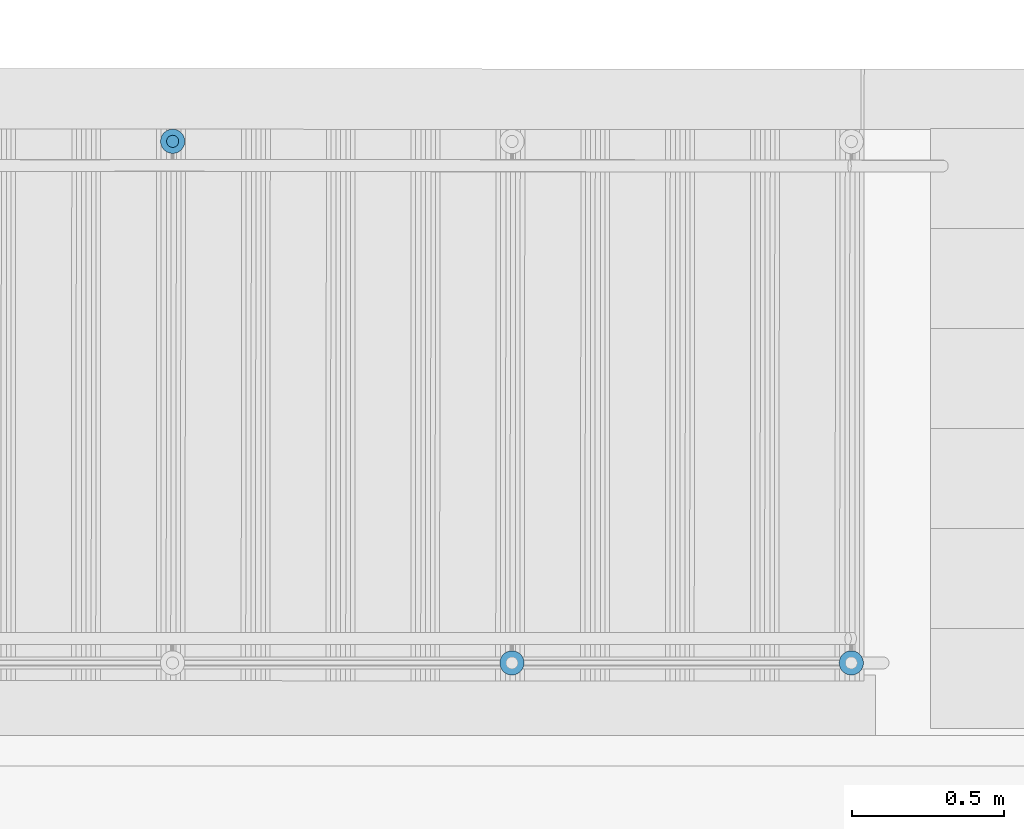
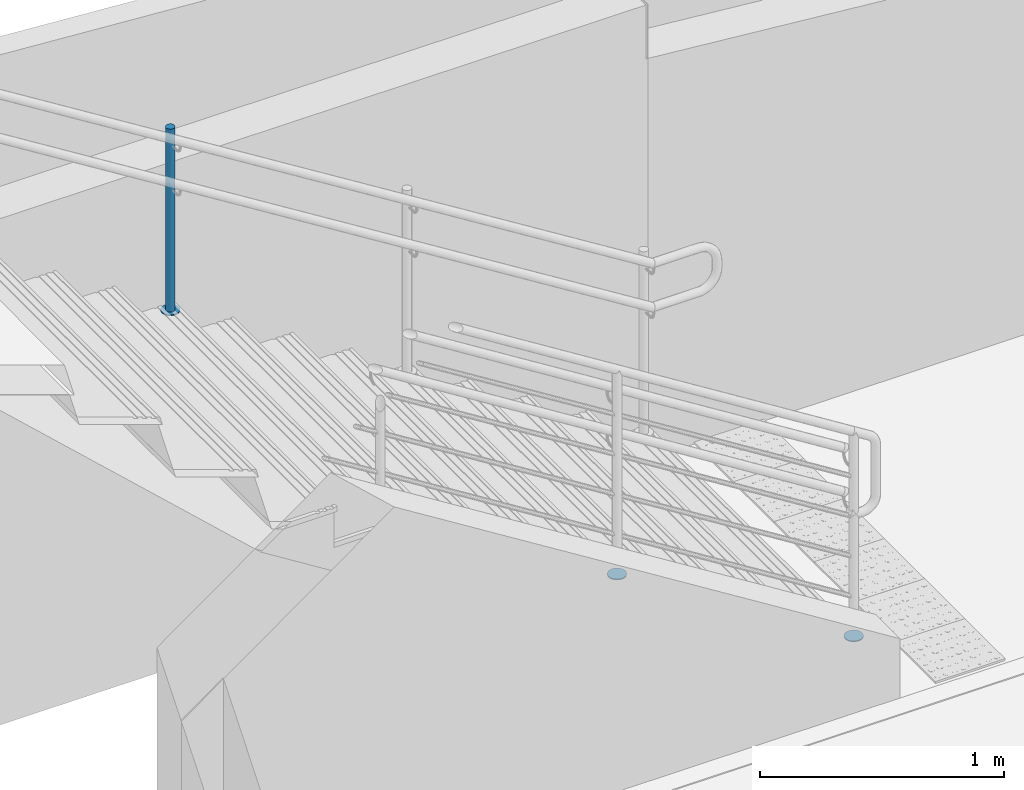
# One storey, part 138 of 237: 4 building element parts, 2 elements without a shape of their own.
"""IFC2X3 building model written with IfcOpenShell, lengths in millimetres."""

from ifc_helpers import new_model, entity, si_unit, converted_unit, derived_unit, money_unit, direction, frame, origin_with_axes, place, context, subcontext, project, spatial, faceted_brep, material, type_object, element, aggregate, save


model = new_model("IFC2X3")

# Units and contexts
model_context = context("Model", 3, precision=0.01, world=origin_with_axes(), true_north=direction((0.0, 1.0)))
body_context = subcontext(model_context, "Body", "Model", "MODEL_VIEW")
ifc_project = project(units=[si_unit("LENGTHUNIT", "METRE", prefix="MILLI"), si_unit("AREAUNIT", "SQUARE_METRE"), si_unit("VOLUMEUNIT", "CUBIC_METRE"), converted_unit("PLANEANGLEUNIT", "DEGREE", entity("IfcPlaneAngleMeasure", 0.0174532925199), si_unit("PLANEANGLEUNIT", "RADIAN"), dimensions=[0, 0, 0, 0, 0, 0, 0]), money_unit("USD"), converted_unit("TIMEUNIT", "Year", entity("IfcTimeMeasure", 31556926.0), si_unit("TIMEUNIT", "SECOND"), dimensions=[0, 0, 1, 0, 0, 0, 0]), si_unit("MASSUNIT", "GRAM", prefix="KILO"), si_unit("THERMODYNAMICTEMPERATUREUNIT", "DEGREE_CELSIUS"), si_unit("LUMINOUSINTENSITYUNIT", "LUMEN"), si_unit("ENERGYUNIT", "JOULE", prefix="MEGA"), derived_unit("THERMALCONDUCTANCEUNIT", [(si_unit("POWERUNIT", "WATT"), 1), (si_unit("LENGTHUNIT", "METRE"), -1), (si_unit("THERMODYNAMICTEMPERATUREUNIT", "KELVIN"), -1)]), derived_unit("SPECIFICHEATCAPACITYUNIT", [(si_unit("ENERGYUNIT", "JOULE"), 1), (si_unit("MASSUNIT", "GRAM", prefix="KILO"), -1), (si_unit("THERMODYNAMICTEMPERATUREUNIT", "KELVIN"), -1)]), derived_unit("MASSDENSITYUNIT", [(si_unit("MASSUNIT", "GRAM", prefix="KILO"), 1), (si_unit("VOLUMEUNIT", "CUBIC_METRE"), -1)])], contexts=[model_context])

# Site, building, storey
site_placement = place(None, origin_with_axes())
site = spatial("IfcSite", under=ifc_project, at=site_placement, Name="Local", CompositionType="ELEMENT")
building_placement = place(site_placement, origin_with_axes())
building = spatial("IfcBuilding", under=site, at=building_placement, Name="Construção", CompositionType="ELEMENT")
storey_placement = place(building_placement, origin_with_axes())
storey = spatial("IfcBuildingStorey", under=building, at=storey_placement, Name="Pavimento Térreo", CompositionType="ELEMENT", Elevation=0.0)

# Railing, building element parts
railing_type = type_object("IfcRailingType", Name="Tipo de Guarda-Corpo", PredefinedType="NOTDEFINED")
railing_1_placement = place(storey_placement, frame((104000.0, 34000.0, -7124.22292764), z_axis=(0.0, 0.0, 1.0), x_axis=(1.0, 0.0, 0.0)))
railing_1 = element("IfcRailing", 1, at=railing_1_placement, inside=storey, type_object=railing_type, Name="Guarda-Corpo - 001", PredefinedType="NOTDEFINED")
ifc_material_1 = material(Name="Aço - Inoxidável")
building_element_part_1_placement = place(railing_1_placement, origin_with_axes())
building_element_part_1 = element("IfcBuildingElementPart", 2, at=building_element_part_1_placement, material=ifc_material_1, Name="Aço - Inoxidável", context=body_context, shape_type="Brep", body=[
    faceted_brep([(-2652.14645915, 432.46807088, 1426.32142389), (-2655.61924154, 432.773979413, 1426.32142389), (-2655.61924154, 432.773979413, 2341.32142389), (-2652.14645915, 432.46807088, 2341.32142389), (-2659.09238503, 432.472198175, 1426.32142389), (-2648.77955658, 431.56376745, 1426.32142389), (-2645.62083547, 430.088545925, 1426.32142389), (-2642.76627196, 428.087230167, 1426.32142389), (-2640.30260052, 425.62062914, 1426.32142389), (-2638.30467856, 422.763689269, 1426.32142389), (-2636.83321193, 419.603217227, 1426.32142389), (-2635.93291039, 416.235242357, 1426.32142389), (-2635.63112915, 412.762098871, 1426.32142389), (-2635.93703768, 409.289316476, 1426.32142389), (-2636.84134111, 405.922413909, 1426.32142389), (-2638.31656264, 402.7636928, 1426.32142389), (-2640.31787839, 399.909129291, 1426.32142389), (-2642.78447942, 397.445457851, 1426.32142389), (-2645.64141929, 395.447535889, 1426.32142389), (-2648.80189133, 393.976069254, 1426.32142389), (-2652.1698662, 393.075767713, 1426.32142389), (-2655.64300969, 392.773986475, 1426.32142389), (-2659.11579208, 393.079895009, 1426.32142389), (-2662.48269465, 393.984198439, 1426.32142389), (-2665.64141576, 395.459419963, 1426.32142389), (-2668.49597927, 397.460735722, 1426.32142389), (-2670.95965071, 399.927336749, 1426.32142389), (-2672.95757267, 402.784276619, 1426.32142389), (-2674.42903931, 405.944748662, 1426.32142389), (-2675.32934085, 409.312723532, 1426.32142389), (-2675.63112209, 412.785867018, 1426.32142389), (-2675.32521355, 416.258649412, 1426.32142389), (-2674.42091012, 419.625551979, 1426.32142389), (-2672.9456886, 422.784273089, 1426.32142389), (-2670.94437284, 425.638836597, 1426.32142389), (-2668.47777181, 428.102508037, 1426.32142389), (-2665.62083194, 430.100429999, 1426.32142389), (-2662.4603599, 431.571896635, 1426.32142389), (-2659.09238503, 432.472198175, 2341.32142389), (-2635.93703768, 409.289316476, 2341.32142389), (-2635.63112915, 412.762098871, 2341.32142389), (-2635.93291039, 416.235242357, 2341.32142389), (-2636.83321193, 419.603217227, 2341.32142389), (-2638.30467856, 422.763689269, 2341.32142389), (-2640.30260052, 425.62062914, 2341.32142389), (-2642.76627196, 428.087230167, 2341.32142389), (-2645.62083547, 430.088545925, 2341.32142389), (-2648.77955658, 431.56376745, 2341.32142389), (-2662.4603599, 431.571896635, 2341.32142389), (-2665.62083194, 430.100429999, 2341.32142389), (-2668.47777181, 428.102508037, 2341.32142389), (-2670.94437284, 425.638836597, 2341.32142389), (-2672.9456886, 422.784273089, 2341.32142389), (-2674.42091012, 419.625551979, 2341.32142389), (-2675.32521355, 416.258649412, 2341.32142389), (-2675.63112209, 412.785867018, 2341.32142389), (-2675.32934085, 409.312723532, 2341.32142389), (-2674.42903931, 405.944748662, 2341.32142389), (-2672.95757267, 402.784276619, 2341.32142389), (-2670.95965071, 399.927336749, 2341.32142389), (-2668.49597927, 397.460735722, 2341.32142389), (-2665.64141576, 395.459419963, 2341.32142389), (-2662.48269465, 393.984198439, 2341.32142389), (-2659.11579208, 393.079895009, 2341.32142389), (-2655.64300969, 392.773986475, 2341.32142389), (-2652.1698662, 393.075767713, 2341.32142389), (-2648.80189133, 393.976069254, 2341.32142389), (-2645.64141929, 395.447535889, 2341.32142389), (-2642.78447942, 397.445457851, 2341.32142389), (-2640.31787839, 399.909129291, 2341.32142389), (-2638.31656264, 402.7636928, 2341.32142389), (-2636.84134111, 405.922413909, 2341.32142389)], [[[0, 1, 2, 3]], [[4, 1, 0, 5, 6, 7, 8, 9, 10, 11, 12, 13, 14, 15, 16, 17, 18, 19, 20, 21, 22, 23, 24, 25, 26, 27, 28, 29, 30, 31, 32, 33, 34, 35, 36, 37]], [[1, 4, 38, 2]], [[39, 40, 41, 42, 43, 44, 45, 46, 47, 3, 2, 38, 48, 49, 50, 51, 52, 53, 54, 55, 56, 57, 58, 59, 60, 61, 62, 63, 64, 65, 66, 67, 68, 69, 70, 71]], [[5, 0, 3, 47]], [[6, 5, 47, 46]], [[7, 6, 46, 45]], [[8, 7, 45, 44]], [[9, 8, 44, 43]], [[10, 9, 43, 42]], [[11, 10, 42, 41]], [[12, 11, 41, 40]], [[13, 12, 40, 39]], [[14, 13, 39, 71]], [[15, 14, 71, 70]], [[16, 15, 70, 69]], [[17, 16, 69, 68]], [[18, 17, 68, 67]], [[19, 18, 67, 66]], [[20, 19, 66, 65]], [[21, 20, 65, 64]], [[22, 21, 64, 63]], [[23, 22, 63, 62]], [[24, 23, 62, 61]], [[25, 24, 61, 60]], [[26, 25, 60, 59]], [[27, 26, 59, 58]], [[28, 27, 58, 57]], [[29, 28, 57, 56]], [[30, 29, 56, 55]], [[31, 30, 55, 54]], [[32, 31, 54, 53]], [[33, 32, 53, 52]], [[34, 33, 52, 51]], [[35, 34, 51, 50]], [[36, 35, 50, 49]], [[37, 36, 49, 48]], [[4, 37, 48, 38]]]),
])
ifc_material_2 = material(Name="Alumínio")
building_element_part_2_placement = place(railing_1_placement, origin_with_axes())
building_element_part_2 = element("IfcBuildingElementPart", 3, at=building_element_part_2_placement, material=ifc_material_2, Name="Alumínio", context=body_context, shape_type="Brep", body=[
    faceted_brep([(-2695.63111855, 412.797751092, 1421.32142389), (-2695.02755608, 405.85146412, 1421.32142389), (-2695.02755608, 405.85146412, 1426.32142389), (-2695.63111855, 412.797751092, 1426.32142389), (-2695.01930149, 419.74331588, 1421.32142389), (-2693.21069463, 426.477121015, 1421.32142389), (-2690.26025158, 432.794563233, 1421.32142389), (-2686.25762006, 438.50369025, 1421.32142389), (-2681.32441801, 443.43103313, 1421.32142389), (-2675.61053827, 447.426877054, 1421.32142389), (-2669.28959418, 450.369810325, 1421.32142389), (-2662.55364444, 452.170413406, 1421.32142389), (-2655.60735747, 452.773975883, 1421.32142389), (-2648.66179268, 452.162158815, 1421.32142389), (-2641.92798755, 450.353551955, 1421.32142389), (-2635.61054533, 447.403108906, 1421.32142389), (-2629.90141831, 443.400477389, 1421.32142389), (-2624.97407543, 438.467275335, 1421.32142389), (-2620.97823151, 432.753395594, 1421.32142389), (-2618.03529824, 426.432451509, 1421.32142389), (-2616.23469515, 419.696501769, 1421.32142389), (-2615.63113268, 412.750214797, 1421.32142389), (-2616.24294975, 405.804650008, 1421.32142389), (-2618.05155661, 399.070844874, 1421.32142389), (-2621.00199965, 392.753402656, 1421.32142389), (-2625.00463117, 387.044275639, 1421.32142389), (-2629.93783323, 382.116932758, 1421.32142389), (-2635.65171297, 378.121088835, 1421.32142389), (-2641.97265705, 375.178155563, 1421.32142389), (-2648.70860679, 373.377552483, 1421.32142389), (-2655.65489376, 372.773990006, 1421.32142389), (-2662.60045855, 373.385807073, 1421.32142389), (-2669.33426369, 375.194413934, 1421.32142389), (-2675.65170591, 378.144856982, 1421.32142389), (-2681.36083292, 382.1474885, 1421.32142389), (-2686.2881758, 387.080690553, 1421.32142389), (-2690.28401973, 392.794570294, 1421.32142389), (-2693.226953, 399.115514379, 1421.32142389), (-2693.226953, 399.115514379, 1426.32142389), (-2690.28401973, 392.794570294, 1426.32142389), (-2686.2881758, 387.080690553, 1426.32142389), (-2681.36083292, 382.1474885, 1426.32142389), (-2675.65170591, 378.144856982, 1426.32142389), (-2669.33426369, 375.194413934, 1426.32142389), (-2662.60045855, 373.385807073, 1426.32142389), (-2655.65489376, 372.773990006, 1426.32142389), (-2648.70860679, 373.377552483, 1426.32142389), (-2641.97265705, 375.178155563, 1426.32142389), (-2635.65171297, 378.121088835, 1426.32142389), (-2629.93783323, 382.116932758, 1426.32142389), (-2625.00463117, 387.044275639, 1426.32142389), (-2621.00199965, 392.753402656, 1426.32142389), (-2618.05155661, 399.070844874, 1426.32142389), (-2616.24294975, 405.804650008, 1426.32142389), (-2615.63113268, 412.750214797, 1426.32142389), (-2616.23469515, 419.696501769, 1426.32142389), (-2618.03529824, 426.432451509, 1426.32142389), (-2620.97823151, 432.753395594, 1426.32142389), (-2624.97407543, 438.467275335, 1426.32142389), (-2629.90141831, 443.400477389, 1426.32142389), (-2635.61054533, 447.403108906, 1426.32142389), (-2641.92798755, 450.353551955, 1426.32142389), (-2648.66179268, 452.162158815, 1426.32142389), (-2655.60735747, 452.773975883, 1426.32142389), (-2662.55364444, 452.170413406, 1426.32142389), (-2669.28959418, 450.369810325, 1426.32142389), (-2675.61053827, 447.426877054, 1426.32142389), (-2681.32441801, 443.43103313, 1426.32142389), (-2686.25762006, 438.50369025, 1426.32142389), (-2690.26025158, 432.794563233, 1426.32142389), (-2693.21069463, 426.477121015, 1426.32142389), (-2695.01930149, 419.74331588, 1426.32142389)], [[[0, 1, 2, 3]], [[0, 4, 5, 6, 7, 8, 9, 10, 11, 12, 13, 14, 15, 16, 17, 18, 19, 20, 21, 22, 23, 24, 25, 26, 27, 28, 29, 30, 31, 32, 33, 34, 35, 36, 37, 1]], [[1, 37, 38, 2]], [[3, 2, 38, 39, 40, 41, 42, 43, 44, 45, 46, 47, 48, 49, 50, 51, 52, 53, 54, 55, 56, 57, 58, 59, 60, 61, 62, 63, 64, 65, 66, 67, 68, 69, 70, 71]], [[4, 0, 3, 71]], [[5, 4, 71, 70]], [[6, 5, 70, 69]], [[7, 6, 69, 68]], [[8, 7, 68, 67]], [[9, 8, 67, 66]], [[10, 9, 66, 65]], [[11, 10, 65, 64]], [[12, 11, 64, 63]], [[13, 12, 63, 62]], [[14, 13, 62, 61]], [[15, 14, 61, 60]], [[16, 15, 60, 59]], [[17, 16, 59, 58]], [[18, 17, 58, 57]], [[19, 18, 57, 56]], [[20, 19, 56, 55]], [[21, 20, 55, 54]], [[22, 21, 54, 53]], [[23, 22, 53, 52]], [[24, 23, 52, 51]], [[25, 24, 51, 50]], [[26, 25, 50, 49]], [[27, 26, 49, 48]], [[28, 27, 48, 47]], [[29, 28, 47, 46]], [[30, 29, 46, 45]], [[31, 30, 45, 44]], [[32, 31, 44, 43]], [[33, 32, 43, 42]], [[34, 33, 42, 41]], [[35, 34, 41, 40]], [[36, 35, 40, 39]], [[37, 36, 39, 38]]]),
])
aggregate(railing_1, [building_element_part_1, building_element_part_2])

railing_2_placement = place(storey_placement, frame((104000.0, 14000.0, -7099.22292764), z_axis=(0.0, 0.0, 1.0), x_axis=(1.0, 0.0, 0.0)))
railing_2 = element("IfcRailing", 4, at=railing_2_placement, inside=storey, type_object=railing_type, Name="Guarda-Corpo - 001", PredefinedType="NOTDEFINED")
building_element_part_3_placement = place(railing_2_placement, origin_with_axes())
building_element_part_3 = element("IfcBuildingElementPart", 5, at=building_element_part_3_placement, material=ifc_material_2, Name="Alumínio", context=body_context, shape_type="Brep", body=[
    faceted_brep([(-376.192676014, 18691.4212506, 25.0553832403), (-376.800365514, 18698.3671777, 25.0553832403), (-376.800365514, 18698.3671777, 30.0553832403), (-376.192676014, 18691.4212506, 30.0553832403), (-376.800366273, 18684.4753235, 25.0553832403), (-378.60497193, 18677.740445, 25.0553832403), (-381.551660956, 18671.4212509, 25.0553832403), (-385.550899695, 18665.7097467, 25.0553832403), (-390.481173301, 18660.7794736, 25.0553832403), (-396.192677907, 18656.7802355, 25.0553832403), (-402.511872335, 18653.8335472, 25.0553832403), (-409.24675106, 18652.0289423, 25.0553832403), (-416.1926782, 18651.4212528, 25.0553832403), (-423.138605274, 18652.028943, 25.0553832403), (-429.873483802, 18653.8335487, 25.0553832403), (-436.192677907, 18656.7802377, 25.0553832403), (-441.904182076, 18660.7794765, 25.0553832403), (-446.834455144, 18665.7097501, 25.0553832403), (-450.833693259, 18671.4212547, 25.0553832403), (-453.780381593, 18677.7404491, 25.0553832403), (-455.584986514, 18684.4753278, 25.0553832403), (-456.192676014, 18691.421255, 25.0553832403), (-455.584985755, 18698.367182, 25.0553832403), (-453.780380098, 18705.1020606, 25.0553832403), (-450.833691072, 18711.4212547, 25.0553832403), (-446.834452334, 18717.1327588, 25.0553832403), (-441.904178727, 18722.0630319, 25.0553832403), (-436.192674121, 18726.06227, 25.0553832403), (-429.873479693, 18729.0089584, 25.0553832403), (-423.138600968, 18730.8135633, 25.0553832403), (-416.192673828, 18731.4212528, 25.0553832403), (-409.246746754, 18730.8135625, 25.0553832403), (-402.511868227, 18729.0089569, 25.0553832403), (-396.192674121, 18726.0622678, 25.0553832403), (-390.481169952, 18722.0630291, 25.0553832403), (-385.550896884, 18717.1327555, 25.0553832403), (-381.55165877, 18711.4212509, 25.0553832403), (-378.604970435, 18705.1020565, 25.0553832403), (-378.604970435, 18705.1020565, 30.0553832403), (-381.55165877, 18711.4212509, 30.0553832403), (-385.550896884, 18717.1327555, 30.0553832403), (-390.481169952, 18722.0630291, 30.0553832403), (-396.192674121, 18726.0622678, 30.0553832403), (-402.511868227, 18729.0089569, 30.0553832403), (-409.246746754, 18730.8135625, 30.0553832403), (-416.192673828, 18731.4212528, 30.0553832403), (-423.138600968, 18730.8135633, 30.0553832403), (-429.873479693, 18729.0089584, 30.0553832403), (-436.192674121, 18726.06227, 30.0553832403), (-441.904178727, 18722.0630319, 30.0553832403), (-446.834452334, 18717.1327588, 30.0553832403), (-450.833691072, 18711.4212547, 30.0553832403), (-453.780380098, 18705.1020606, 30.0553832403), (-455.584985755, 18698.367182, 30.0553832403), (-456.192676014, 18691.421255, 30.0553832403), (-455.584986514, 18684.4753278, 30.0553832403), (-453.780381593, 18677.7404491, 30.0553832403), (-450.833693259, 18671.4212547, 30.0553832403), (-446.834455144, 18665.7097501, 30.0553832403), (-441.904182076, 18660.7794765, 30.0553832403), (-436.192677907, 18656.7802377, 30.0553832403), (-429.873483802, 18653.8335487, 30.0553832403), (-423.138605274, 18652.028943, 30.0553832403), (-416.1926782, 18651.4212528, 30.0553832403), (-409.24675106, 18652.0289423, 30.0553832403), (-402.511872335, 18653.8335472, 30.0553832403), (-396.192677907, 18656.7802355, 30.0553832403), (-390.481173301, 18660.7794736, 30.0553832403), (-385.550899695, 18665.7097467, 30.0553832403), (-381.551660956, 18671.4212509, 30.0553832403), (-378.60497193, 18677.740445, 30.0553832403), (-376.800366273, 18684.4753235, 30.0553832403)], [[[0, 1, 2, 3]], [[0, 4, 5, 6, 7, 8, 9, 10, 11, 12, 13, 14, 15, 16, 17, 18, 19, 20, 21, 22, 23, 24, 25, 26, 27, 28, 29, 30, 31, 32, 33, 34, 35, 36, 37, 1]], [[1, 37, 38, 2]], [[3, 2, 38, 39, 40, 41, 42, 43, 44, 45, 46, 47, 48, 49, 50, 51, 52, 53, 54, 55, 56, 57, 58, 59, 60, 61, 62, 63, 64, 65, 66, 67, 68, 69, 70, 71]], [[4, 0, 3, 71]], [[5, 4, 71, 70]], [[6, 5, 70, 69]], [[7, 6, 69, 68]], [[8, 7, 68, 67]], [[9, 8, 67, 66]], [[10, 9, 66, 65]], [[11, 10, 65, 64]], [[12, 11, 64, 63]], [[13, 12, 63, 62]], [[14, 13, 62, 61]], [[15, 14, 61, 60]], [[16, 15, 60, 59]], [[17, 16, 59, 58]], [[18, 17, 58, 57]], [[19, 18, 57, 56]], [[20, 19, 56, 55]], [[21, 20, 55, 54]], [[22, 21, 54, 53]], [[23, 22, 53, 52]], [[24, 23, 52, 51]], [[25, 24, 51, 50]], [[26, 25, 50, 49]], [[27, 26, 49, 48]], [[28, 27, 48, 47]], [[29, 28, 47, 46]], [[30, 29, 46, 45]], [[31, 30, 45, 44]], [[32, 31, 44, 43]], [[33, 32, 43, 42]], [[34, 33, 42, 41]], [[35, 34, 41, 40]], [[36, 35, 40, 39]], [[37, 36, 39, 38]]]),
])
building_element_part_4_placement = place(railing_2_placement, origin_with_axes())
building_element_part_4 = element("IfcBuildingElementPart", 6, at=building_element_part_4_placement, material=ifc_material_2, Name="Alumínio", context=body_context, shape_type="Brep", body=[
    faceted_brep([(-1496.1732659, 18691.4213118, 726.593955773), (-1496.7809554, 18698.3672389, 726.593955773), (-1496.7809554, 18698.3672389, 731.593955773), (-1496.1732659, 18691.4213118, 731.593955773), (-1496.78095616, 18684.4753847, 726.593955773), (-1498.58556182, 18677.7405062, 726.593955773), (-1501.53225084, 18671.4213121, 726.593955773), (-1505.53148958, 18665.7098079, 726.593955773), (-1510.46176319, 18660.7795349, 726.593955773), (-1516.17326779, 18656.7802967, 726.593955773), (-1522.49246222, 18653.8336084, 726.593955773), (-1529.22734095, 18652.0290035, 726.593955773), (-1536.17326809, 18651.421314, 726.593955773), (-1543.11919516, 18652.0290042, 726.593955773), (-1549.85407369, 18653.8336099, 726.593955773), (-1556.17326779, 18656.7802989, 726.593955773), (-1561.88477196, 18660.7795377, 726.593955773), (-1566.81504503, 18665.7098113, 726.593955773), (-1570.81428314, 18671.4213159, 726.593955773), (-1573.76097148, 18677.7405103, 726.593955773), (-1575.5655764, 18684.475389, 726.593955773), (-1576.1732659, 18691.4213162, 726.593955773), (-1575.56557564, 18698.3672432, 726.593955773), (-1573.76096998, 18705.1021218, 726.593955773), (-1570.81428096, 18711.4213159, 726.593955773), (-1566.81504222, 18717.1328201, 726.593955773), (-1561.88476861, 18722.0630931, 726.593955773), (-1556.17326401, 18726.0623312, 726.593955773), (-1549.85406958, 18729.0090196, 726.593955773), (-1543.11919085, 18730.8136245, 726.593955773), (-1536.17326371, 18731.421314, 726.593955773), (-1529.22733664, 18730.8136237, 726.593955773), (-1522.49245811, 18729.0090181, 726.593955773), (-1516.17326401, 18726.062329, 726.593955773), (-1510.46175984, 18722.0630903, 726.593955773), (-1505.53148677, 18717.1328167, 726.593955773), (-1501.53224866, 18711.4213121, 726.593955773), (-1498.58556032, 18705.1021177, 726.593955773), (-1498.58556032, 18705.1021177, 731.593955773), (-1501.53224866, 18711.4213121, 731.593955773), (-1505.53148677, 18717.1328167, 731.593955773), (-1510.46175984, 18722.0630903, 731.593955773), (-1516.17326401, 18726.062329, 731.593955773), (-1522.49245811, 18729.0090181, 731.593955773), (-1529.22733664, 18730.8136237, 731.593955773), (-1536.17326371, 18731.421314, 731.593955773), (-1543.11919085, 18730.8136245, 731.593955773), (-1549.85406958, 18729.0090196, 731.593955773), (-1556.17326401, 18726.0623312, 731.593955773), (-1561.88476861, 18722.0630931, 731.593955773), (-1566.81504222, 18717.1328201, 731.593955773), (-1570.81428096, 18711.4213159, 731.593955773), (-1573.76096998, 18705.1021218, 731.593955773), (-1575.56557564, 18698.3672432, 731.593955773), (-1576.1732659, 18691.4213162, 731.593955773), (-1575.5655764, 18684.475389, 731.593955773), (-1573.76097148, 18677.7405103, 731.593955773), (-1570.81428314, 18671.4213159, 731.593955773), (-1566.81504503, 18665.7098113, 731.593955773), (-1561.88477196, 18660.7795377, 731.593955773), (-1556.17326779, 18656.7802989, 731.593955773), (-1549.85407369, 18653.8336099, 731.593955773), (-1543.11919516, 18652.0290042, 731.593955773), (-1536.17326809, 18651.421314, 731.593955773), (-1529.22734095, 18652.0290035, 731.593955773), (-1522.49246222, 18653.8336084, 731.593955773), (-1516.17326779, 18656.7802967, 731.593955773), (-1510.46176319, 18660.7795349, 731.593955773), (-1505.53148958, 18665.7098079, 731.593955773), (-1501.53225084, 18671.4213121, 731.593955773), (-1498.58556182, 18677.7405062, 731.593955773), (-1496.78095616, 18684.4753847, 731.593955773)], [[[0, 1, 2, 3]], [[0, 4, 5, 6, 7, 8, 9, 10, 11, 12, 13, 14, 15, 16, 17, 18, 19, 20, 21, 22, 23, 24, 25, 26, 27, 28, 29, 30, 31, 32, 33, 34, 35, 36, 37, 1]], [[1, 37, 38, 2]], [[3, 2, 38, 39, 40, 41, 42, 43, 44, 45, 46, 47, 48, 49, 50, 51, 52, 53, 54, 55, 56, 57, 58, 59, 60, 61, 62, 63, 64, 65, 66, 67, 68, 69, 70, 71]], [[4, 0, 3, 71]], [[5, 4, 71, 70]], [[6, 5, 70, 69]], [[7, 6, 69, 68]], [[8, 7, 68, 67]], [[9, 8, 67, 66]], [[10, 9, 66, 65]], [[11, 10, 65, 64]], [[12, 11, 64, 63]], [[13, 12, 63, 62]], [[14, 13, 62, 61]], [[15, 14, 61, 60]], [[16, 15, 60, 59]], [[17, 16, 59, 58]], [[18, 17, 58, 57]], [[19, 18, 57, 56]], [[20, 19, 56, 55]], [[21, 20, 55, 54]], [[22, 21, 54, 53]], [[23, 22, 53, 52]], [[24, 23, 52, 51]], [[25, 24, 51, 50]], [[26, 25, 50, 49]], [[27, 26, 49, 48]], [[28, 27, 48, 47]], [[29, 28, 47, 46]], [[30, 29, 46, 45]], [[31, 30, 45, 44]], [[32, 31, 44, 43]], [[33, 32, 43, 42]], [[34, 33, 42, 41]], [[35, 34, 41, 40]], [[36, 35, 40, 39]], [[37, 36, 39, 38]]]),
])
aggregate(railing_2, [building_element_part_3, building_element_part_4])

save(model, "model.ifc")
